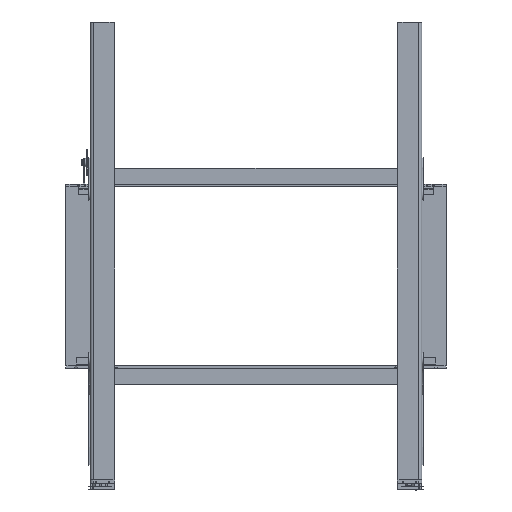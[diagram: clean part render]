
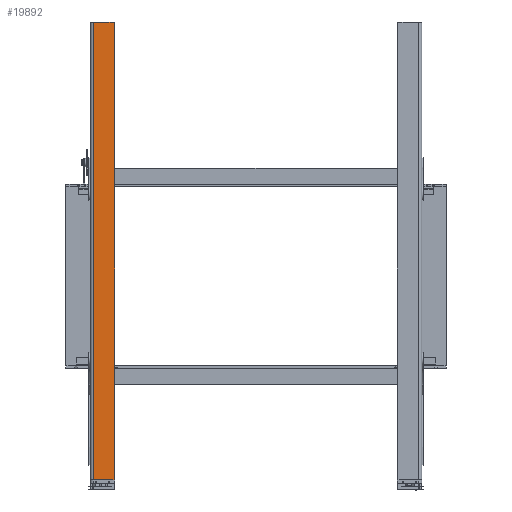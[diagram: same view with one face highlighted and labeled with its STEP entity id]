
A CAD part, front view. The second image highlights one B-rep face of the part: STEP entity #19892.
In plain terms, the highlighted planar face has unit normal (0, -1, 0).
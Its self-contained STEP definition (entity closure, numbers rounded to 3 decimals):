
#1703=LINE('',#28953,#3484);
#1812=LINE('',#29313,#3593);
#1827=LINE('',#29359,#3608);
#1829=LINE('',#29365,#3610);
#1830=LINE('',#29369,#3611);
#1831=LINE('',#29370,#3612);
#3484=VECTOR('',#23049,10.);
#3593=VECTOR('',#23384,10.);
#3608=VECTOR('',#23433,10.);
#3610=VECTOR('',#23443,10.);
#3611=VECTOR('',#23450,10.);
#3612=VECTOR('',#23451,10.);
#5364=FACE_OUTER_BOUND('',#6418,.T.);
#6418=EDGE_LOOP('',(#13742,#13743,#13744,#13745,#13746,#13747,#13748,#13749));
#7535=CIRCLE('',#21036,2.);
#7537=CIRCLE('',#21041,2.);
#8489=VERTEX_POINT('',#28939);
#8495=VERTEX_POINT('',#28951);
#8631=VERTEX_POINT('',#29306);
#8632=VERTEX_POINT('',#29308);
#8633=VERTEX_POINT('',#29312);
#8638=VERTEX_POINT('',#29326);
#8646=VERTEX_POINT('',#29356);
#8647=VERTEX_POINT('',#29358);
#10411=EDGE_CURVE('',#8495,#8489,#1703,.T.);
#10590=EDGE_CURVE('',#8632,#8631,#7535,.T.);
#10592=EDGE_CURVE('',#8633,#8632,#1812,.T.);
#10599=EDGE_CURVE('',#8638,#8633,#7537,.T.);
#10616=EDGE_CURVE('',#8647,#8646,#1827,.T.);
#10620=EDGE_CURVE('',#8631,#8647,#1829,.T.);
#10622=EDGE_CURVE('',#8489,#8646,#1830,.T.);
#10623=EDGE_CURVE('',#8638,#8495,#1831,.T.);
#13742=ORIENTED_EDGE('',*,*,#10590,.T.);
#13743=ORIENTED_EDGE('',*,*,#10620,.T.);
#13744=ORIENTED_EDGE('',*,*,#10616,.T.);
#13745=ORIENTED_EDGE('',*,*,#10622,.F.);
#13746=ORIENTED_EDGE('',*,*,#10411,.F.);
#13747=ORIENTED_EDGE('',*,*,#10623,.F.);
#13748=ORIENTED_EDGE('',*,*,#10599,.T.);
#13749=ORIENTED_EDGE('',*,*,#10592,.T.);
#19301=PLANE('',#21061);
#19892=ADVANCED_FACE('',(#5364),#19301,.T.);
#21036=AXIS2_PLACEMENT_3D('',#29309,#23379,#23380);
#21041=AXIS2_PLACEMENT_3D('',#29327,#23396,#23397);
#21061=AXIS2_PLACEMENT_3D('',#29368,#23448,#23449);
#23049=DIRECTION('',(-1.,0.,0.));
#23379=DIRECTION('center_axis',(0.,-1.,0.));
#23380=DIRECTION('ref_axis',(0.707,0.,0.707));
#23384=DIRECTION('',(0.,0.,1.));
#23396=DIRECTION('center_axis',(0.,-1.,0.));
#23397=DIRECTION('ref_axis',(0.707,0.,-0.707));
#23433=DIRECTION('',(0.,0.,-1.));
#23443=DIRECTION('',(-1.,0.,0.));
#23448=DIRECTION('center_axis',(0.,-1.,0.));
#23449=DIRECTION('ref_axis',(0.,0.,
-1.));
#23450=DIRECTION('',(-1.,0.,0.));
#23451=DIRECTION('',(-1.,0.,0.));
#28939=CARTESIAN_POINT('',(-494.5,-725.5,-904.));
#28951=CARTESIAN_POINT('',(-452.5,-725.5,-904.));
#28953=CARTESIAN_POINT('',(-435.5,-725.5,-904.));
#29306=CARTESIAN_POINT('',(-437.5,-725.5,508.5));
#29308=CARTESIAN_POINT('',(-435.5,-725.5,506.5));
#29309=CARTESIAN_POINT('Origin',(-437.5,-725.5,506.5));
#29312=CARTESIAN_POINT('',(-435.5,-725.5,-902.));
#29313=CARTESIAN_POINT('',(-435.5,-725.5,-904.));
#29326=CARTESIAN_POINT('',(-437.5,-725.5,-904.));
#29327=CARTESIAN_POINT('Origin',(-437.5,-725.5,-902.));
#29356=CARTESIAN_POINT('',(-501.25,-725.5,-904.));
#29358=CARTESIAN_POINT('',(-501.25,-725.5,508.5));
#29359=CARTESIAN_POINT('',(-501.25,-725.5,-197.75));
#29365=CARTESIAN_POINT('',(-435.5,-725.5,508.5));
#29368=CARTESIAN_POINT('Origin',(-506.591,-725.5,-197.75));
#29369=CARTESIAN_POINT('',(-435.5,-725.5,-904.));
#29370=CARTESIAN_POINT('',(-435.5,-725.5,-904.));
